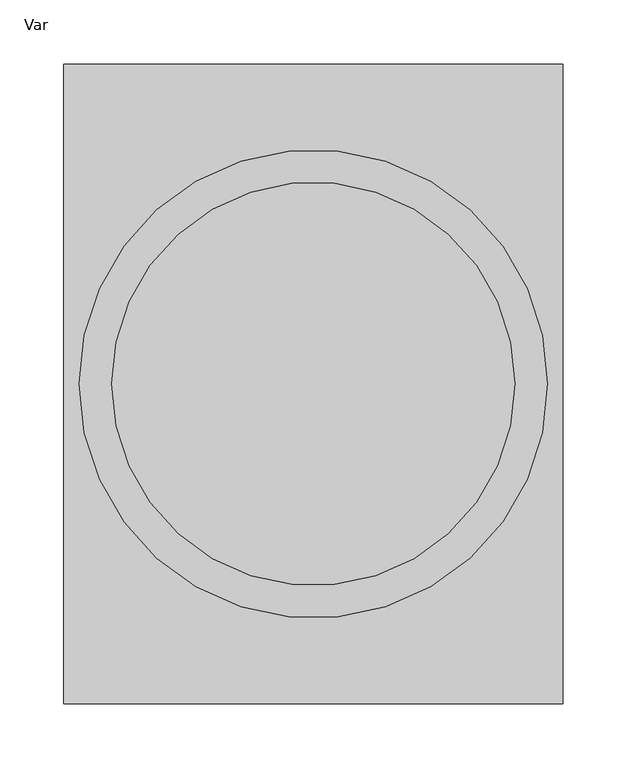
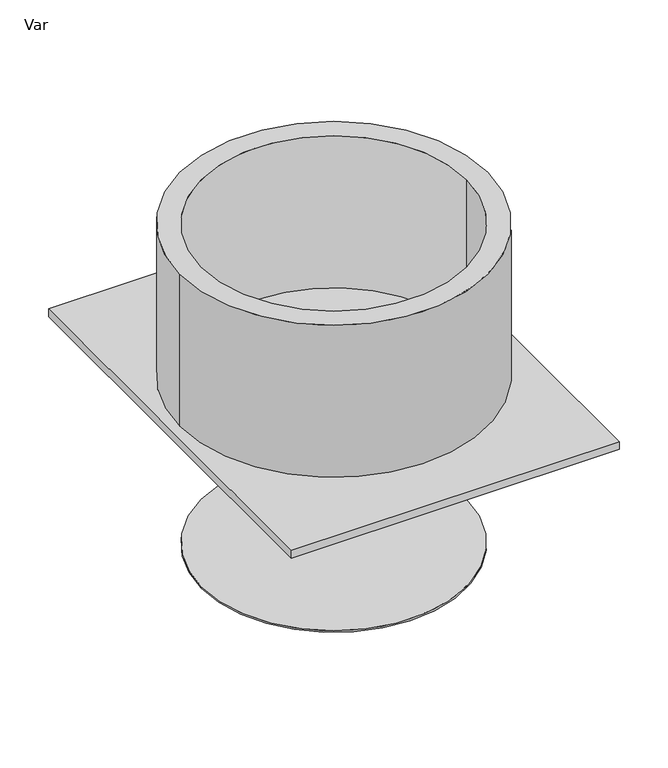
"""IFC4 building model written with IfcOpenShell, lengths in millimetres: pipe fitting geometry, PavcoWavin_UnionesDeTuberia_AquacellCoreAdaptador : Var."""

from ifc_helpers import new_model, si_unit, point, frame, origin, origin_with_axes, origin_2d, place, context, project, spatial, polyline, circle_curve, trimmed, segment, composite_curve, outline, extrude, source, transform, mapped, element, save


def var_300c146d(model_context):
    return source(origin(), model_context, "Body", "SweptSolid", [
        extrude(outline(composite_curve([segment(trimmed(circle_curve(origin_2d(), 157.5), [point((-157.5, 0.0))], [point((157.5, 0.0))], False, "CARTESIAN"), True, "CONTINUOUS"), segment(trimmed(circle_curve(origin_2d(), 157.5), [point((157.5, 0.0))], [point((-157.5, 0.0))], False, "CARTESIAN"), True, "CONTINUOUS")], self_intersect=False)), frame((0.0, 0.0, -203.0), z_axis=(0.0, 0.0, 1.0), x_axis=(1.0, 0.0, 0.0)), (0.0, 0.0, 1.0), 2.0),
        extrude(outline(composite_curve([segment(trimmed(circle_curve(origin_2d(), 183.0), [point((-183.0, 0.0))], [point((183.0, 0.0))], False, "CARTESIAN"), True, "CONTINUOUS"), segment(trimmed(circle_curve(origin_2d(), 183.0), [point((183.0, 0.0))], [point((-183.0, 0.0))], False, "CARTESIAN"), True, "CONTINUOUS")], self_intersect=False), holes=[composite_curve([segment(trimmed(circle_curve(origin_2d(), 157.5), [point((-157.5, 0.0))], [point((157.5, 0.0))], True, "CARTESIAN"), True, "CONTINUOUS"), segment(trimmed(circle_curve(origin_2d(), 157.5), [point((157.5, 0.0))], [point((-157.5, 0.0))], True, "CARTESIAN"), True, "CONTINUOUS")], self_intersect=False)]), origin_with_axes(), (0.0, 0.0, 1.0), 201.0),
        extrude(outline(polyline([(-195.0, -250.0), (-195.0, 250.0), (195.0, 250.0), (195.0, -250.0), (-195.0, -250.0)])), origin_with_axes(), (0.0, 0.0, 1.0), 10.0),
    ])


if __name__ == "__main__":
    model = new_model("IFC4")
    model_context = context("Model", 3, world=origin())
    ifc_project = project(units=[si_unit("LENGTHUNIT", "METRE", prefix="MILLI")], contexts=[model_context])
    site = spatial("IfcSite", under=ifc_project)
    building = spatial("IfcBuilding", under=site)
    placement = place(None, origin())
    var_shape = var_300c146d(model_context)
    element("IfcPipeFitting", 1, ObjectType="PavcoWavin_UnionesDeTuberia_AquacellCoreAdaptador : Var", at=placement, inside=building, context=model_context, shape_type="MappedRepresentation", body=[
        mapped(var_shape, transform((0.0, 0.0, 0.0), x_axis=(1.0, 0.0, 0.0), y_axis=(0.0, 1.0, 0.0), z_axis=(0.0, 0.0, 1.0))),
    ])
    save(model, "model.ifc")
